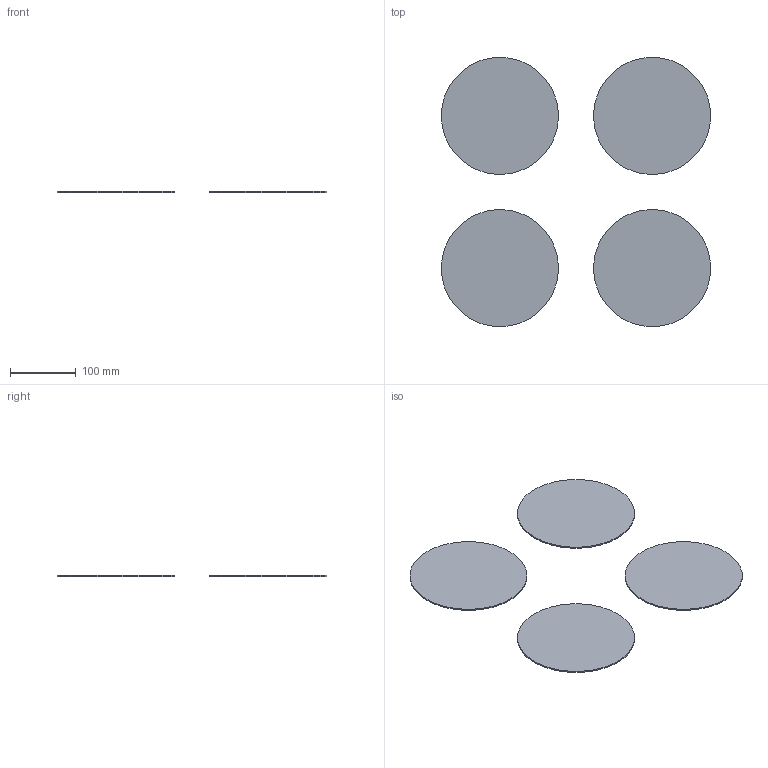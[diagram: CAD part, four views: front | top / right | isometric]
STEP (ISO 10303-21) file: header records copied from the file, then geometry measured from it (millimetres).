
FILE_DESCRIPTION(('FreeCAD Model'),'2;1');
FILE_NAME('Open CASCADE Shape Model','2026-10-22T12:49:28',('FreeCAD'),( 'FreeCAD'),'Open CASCADE STEP processor 8.0','FreeCAD','Unknown');
FILE_SCHEMA(('AUTOMOTIVE_DESIGN { 1 0 10303 214 1 1 1 1 }'));
Length unit declared in the file: millimetre
Products named in the file (1): Open CASCADE STEP translator 8.0 5
Bounding box: 409.22 x 409.22 x 2 mm (x, y, z)
Volume: 199076.4 mm3; surface area: 203550.1 mm2
Topology: 4 solids, 4 shells, 12 faces, 12 edges, 8 vertices
Faces by surface type: plane 8, cylinder 4
Full cylindrical faces by diameter (mm): 178 x4
Entity records: 228 total; most frequent: DIRECTION 46, CARTESIAN_POINT 33, ORIENTED_EDGE 24, AXIS2_PLACEMENT_3D 21, ADVANCED_FACE 12, FACE_BOUND 12, EDGE_LOOP 12, EDGE_CURVE 12
